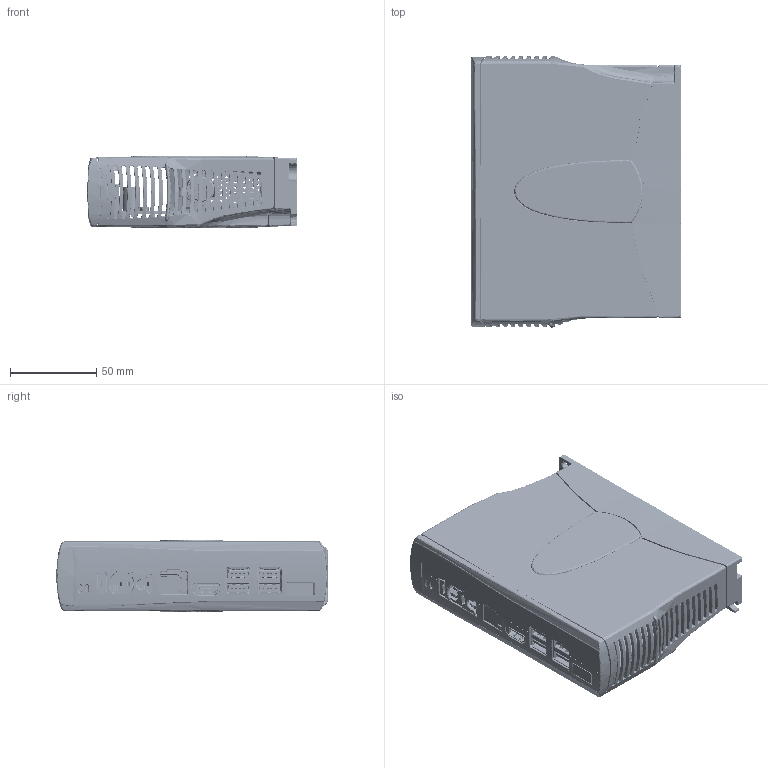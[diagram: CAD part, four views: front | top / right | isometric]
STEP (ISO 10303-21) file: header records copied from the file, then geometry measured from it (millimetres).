
FILE_DESCRIPTION(/* description */ (''),/* implementation_level */ '2;1');
FILE_NAME(/* name */ 'P6UW2M~L',/* time_stamp */ '2018-05-21T08:22:38+01:00',/* author */ (''),/* organization */ (''),/* preprocessor_version */ 'ST-DEVELOPER v15',/* originating_system */ '',/* authorisation */ '');
FILE_SCHEMA (('AUTOMOTIVE_DESIGN'));
Products named in the file (1): Document
Bounding box: 121.14 x 157.06 x 41.88 mm (x, y, z)
Volume: 48859.1 mm3; surface area: 226224.3 mm2
Topology: 160 solids, 3066 shells, 15047 faces, 50513 edges, 37340 vertices
Faces by surface type: plane 7603, bspline 7444
Entity records: 780810 total; most frequent: CARTESIAN_POINT 465335, ORIENTED_EDGE 81982, EDGE_CURVE 50399, B_SPLINE_CURVE_WITH_KNOTS 40030, VERTEX_POINT 37339, EDGE_LOOP 16394, ADVANCED_FACE 15045, FACE_OUTER_BOUND 15045
